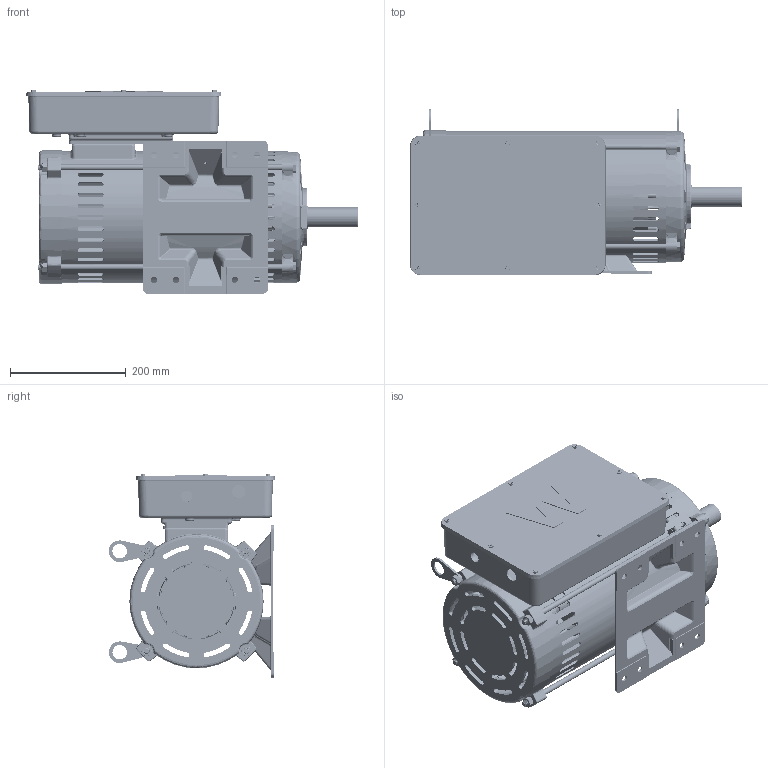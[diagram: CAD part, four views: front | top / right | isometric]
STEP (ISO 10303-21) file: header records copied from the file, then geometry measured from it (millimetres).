
FILE_DESCRIPTION (( 'STEP AP203' ), '1' );
FILE_NAME ('CDM-210T 10HP-4P.STEP', '2025-01-11T03:23:58', ( 'User' ), ( 'China' ), 'SwSTEP 2.0', 'SolidWorks 2019', '' );
FILE_SCHEMA (( 'CONFIG_CONTROL_DESIGN' ));
Length unit declared in the file: millimetre
Products named in the file (11): 213-1; t; 1111; dij; 111111111111; CDM-210T 10HP-4P; luomu; 堤盄碟; 錨璃2; zhuti; M5坋趼蹟佪
Assembly tree (24 placements, depth 2):
  CDM-210T 10HP-4P
    zhuti
    213-1
    1111  x4
    111111111111  x2
    luomu  x4
    堤盄碟
    錨璃2
    M5坋趼蹟佪  x8
    t
    dij
Bounding box: 573.75 x 287.51 x 351.33 mm (x, y, z)
Volume: 6839305.7 mm3; surface area: 1783432.4 mm2
Topology: 28 solids, 28 shells, 4082 faces, 10814 edges, 6714 vertices
Faces by surface type: plane 1304, cylinder 1294, bspline 679, cone 655, torus 140, sphere 10
Entity records: 120248 total; most frequent: CARTESIAN_POINT 54495, ORIENTED_EDGE 14478, DIRECTION 12311, EDGE_CURVE 7239, AXIS2_PLACEMENT_3D 4861, VERTEX_POINT 4463, EDGE_LOOP 3164, ADVANCED_FACE 2855
